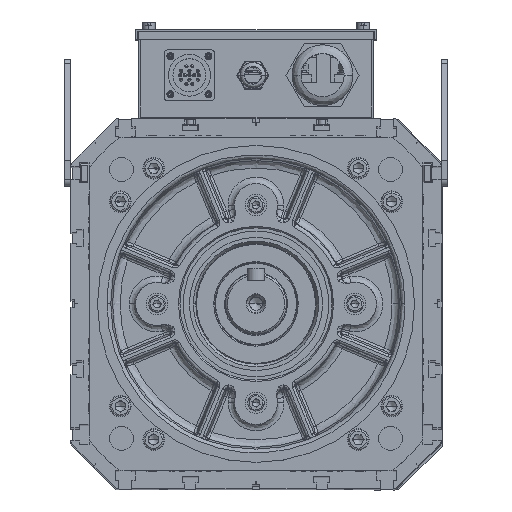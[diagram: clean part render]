
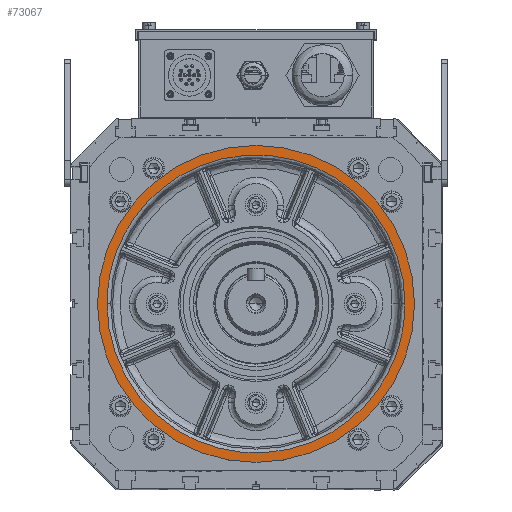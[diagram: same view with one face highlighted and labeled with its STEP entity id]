
A CAD part, top view. The second image highlights one B-rep face of the part: STEP entity #73067.
In plain terms, the highlighted planar face has unit normal (0, 0, 1) as drawn and (0, 0, -1) by its records, which use the part's own axes.
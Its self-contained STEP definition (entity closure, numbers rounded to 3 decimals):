
#1217 = DIRECTION ( 'NONE',  ( 1., 0., 0. ) ) ;
#3155 = ORIENTED_EDGE ( 'NONE', *, *, #152131, .F. ) ;
#3241 = DIRECTION ( 'NONE',  ( 0., 0., 1. ) ) ;
#4094 = AXIS2_PLACEMENT_3D ( 'NONE', #121305, #3241, #1217 ) ;
#4384 = CARTESIAN_POINT ( 'NONE',  ( -59.315, 5.856, 132.5 ) ) ;
#4450 = CARTESIAN_POINT ( 'NONE',  ( 58.202, 5.856, 132.5 ) ) ;
#5918 = CARTESIAN_POINT ( 'NONE',  ( 175.72, 5.856, 132.5 ) ) ;
#12203 = AXIS2_PLACEMENT_3D ( 'NONE', #72045, #13492, #95839 ) ;
#12813 = CARTESIAN_POINT ( 'NONE',  ( -59.315, -229.179, 132.5 ) ) ;
#13384 = EDGE_CURVE ( 'NONE', #68839, #94721, #38895, .T. ) ;
#13492 = DIRECTION ( 'NONE',  ( 0., 0., 1. ) ) ;
#27895 = CARTESIAN_POINT ( 'NONE',  ( -59.315, 5.856, 132.5 ) ) ;
#29309 = CARTESIAN_POINT ( 'NONE',  ( 175.72, 240.89, 132.5 ) ) ;
#30760 =( BOUNDED_CURVE ( )  B_SPLINE_CURVE ( 3, ( #81806, #117407, #12813, #153721 ),
 .UNSPECIFIED., .F., .F. ) 
 B_SPLINE_CURVE_WITH_KNOTS ( ( 4, 4 ),
 ( 0., 1. ),
 .UNSPECIFIED. ) 
 CURVE ( )  GEOMETRIC_REPRESENTATION_ITEM ( )  RATIONAL_B_SPLINE_CURVE ( ( 1., 0.333, 0.333, 1. ) ) 
 REPRESENTATION_ITEM ( '' )  );
#38895 = CIRCLE ( 'NONE', #67293, 125. ) ;
#44948 = EDGE_LOOP ( 'NONE', ( #3155, #131402 ) ) ;
#47226 = CARTESIAN_POINT ( 'NONE',  ( 175.72, 5.856, 132.5 ) ) ;
#52338 = FACE_OUTER_BOUND ( 'NONE', #144297, .T. ) ;
#52842 = CARTESIAN_POINT ( 'NONE',  ( -66.798, 5.856, 132.5 ) ) ;
#55248 = EDGE_CURVE ( 'NONE', #133682, #105748, #76256, .T. ) ;
#65979 = CARTESIAN_POINT ( 'NONE',  ( -59.315, 240.89, 132.5 ) ) ;
#67293 = AXIS2_PLACEMENT_3D ( 'NONE', #4450, #87353, #111064 ) ;
#68839 = VERTEX_POINT ( 'NONE', #52842 ) ;
#72045 = CARTESIAN_POINT ( 'NONE',  ( 58.202, 5.856, 132.5 ) ) ;
#73067 = ADVANCED_FACE ( 'NONE', ( #52338, #150487 ), #85132, .F. ) ;
#76256 =( BOUNDED_CURVE ( )  B_SPLINE_CURVE ( 3, ( #4384, #65979, #29309, #5918 ),
 .UNSPECIFIED., .F., .F. ) 
 B_SPLINE_CURVE_WITH_KNOTS ( ( 4, 4 ),
 ( 0., 1. ),
 .UNSPECIFIED. ) 
 CURVE ( )  GEOMETRIC_REPRESENTATION_ITEM ( )  RATIONAL_B_SPLINE_CURVE ( ( 1., 0.333, 0.333, 1. ) ) 
 REPRESENTATION_ITEM ( '' )  );
#81806 = CARTESIAN_POINT ( 'NONE',  ( 175.72, 5.856, 132.5 ) ) ;
#85132 = PLANE ( 'NONE',  #4094 ) ;
#87353 = DIRECTION ( 'NONE',  ( 0., 0., 1. ) ) ;
#90280 = ORIENTED_EDGE ( 'NONE', *, *, #13384, .F. ) ;
#94721 = VERTEX_POINT ( 'NONE', #105349 ) ;
#95839 = DIRECTION ( 'NONE',  ( -1., 0., 0. ) ) ;
#105349 = CARTESIAN_POINT ( 'NONE',  ( 183.202, 5.856, 132.5 ) ) ;
#105748 = VERTEX_POINT ( 'NONE', #47226 ) ;
#109927 = CIRCLE ( 'NONE', #12203, 125. ) ;
#111064 = DIRECTION ( 'NONE',  ( -1., 0., 0. ) ) ;
#117407 = CARTESIAN_POINT ( 'NONE',  ( 175.72, -229.179, 132.5 ) ) ;
#120824 = EDGE_CURVE ( 'NONE', #94721, #68839, #109927, .T. ) ;
#121305 = CARTESIAN_POINT ( 'NONE',  ( 58.202, 130.856, 132.5 ) ) ;
#128387 = ORIENTED_EDGE ( 'NONE', *, *, #120824, .F. ) ;
#131402 = ORIENTED_EDGE ( 'NONE', *, *, #55248, .F. ) ;
#133682 = VERTEX_POINT ( 'NONE', #27895 ) ;
#144297 = EDGE_LOOP ( 'NONE', ( #90280, #128387 ) ) ;
#150487 = FACE_BOUND ( 'NONE', #44948, .T. ) ;
#152131 = EDGE_CURVE ( 'NONE', #105748, #133682, #30760, .T. ) ;
#153721 = CARTESIAN_POINT ( 'NONE',  ( -59.315, 5.856, 132.5 ) ) ;
